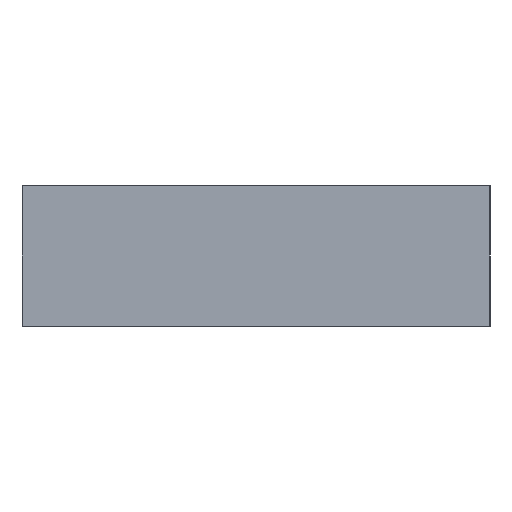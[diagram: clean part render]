
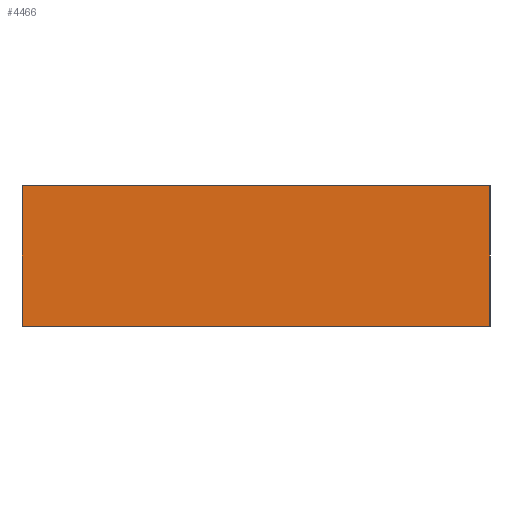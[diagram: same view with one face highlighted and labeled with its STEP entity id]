
A CAD part, left-side view. The second image highlights one B-rep face of the part: STEP entity #4466.
In plain terms, the highlighted planar face has unit normal (-1, 0, 0).
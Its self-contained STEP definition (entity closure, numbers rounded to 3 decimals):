
#4302=CARTESIAN_POINT('',(0.,0.,6.));
#4303=VERTEX_POINT('',#4302);
#4320=CARTESIAN_POINT('',(0.,20.,6.));
#4321=VERTEX_POINT('',#4320);
#4328=CARTESIAN_POINT('',(0.,20.,6.));
#4329=DIRECTION('',(0.,-1.,0.));
#4330=VECTOR('',#4329,20.);
#4331=LINE('',#4328,#4330);
#4332=EDGE_CURVE('',#4321,#4303,#4331,.T.);
#4376=CARTESIAN_POINT('',(0.,0.,0.));
#4377=VERTEX_POINT('',#4376);
#4393=CARTESIAN_POINT('',(0.,0.,6.));
#4394=DIRECTION('',(0.,0.,-1.));
#4395=VECTOR('',#4394,6.);
#4396=LINE('',#4393,#4395);
#4397=EDGE_CURVE('',#4303,#4377,#4396,.T.);
#4431=CARTESIAN_POINT('',(0.,20.,0.));
#4432=VERTEX_POINT('',#4431);
#4439=CARTESIAN_POINT('',(0.,20.,6.));
#4440=DIRECTION('',(0.,0.,-1.));
#4441=VECTOR('',#4440,6.);
#4442=LINE('',#4439,#4441);
#4443=EDGE_CURVE('',#4321,#4432,#4442,.T.);
#4450=CARTESIAN_POINT('',(0.,10.,6.));
#4451=DIRECTION('',(1.,0.,0.));
#4452=DIRECTION('',(0.,0.,-1.));
#4453=AXIS2_PLACEMENT_3D('',#4450,#4451,#4452);
#4454=PLANE('',#4453);
#4455=CARTESIAN_POINT('',(0.,20.,0.));
#4456=DIRECTION('',(0.,-1.,0.));
#4457=VECTOR('',#4456,20.);
#4458=LINE('',#4455,#4457);
#4459=EDGE_CURVE('',#4432,#4377,#4458,.T.);
#4460=ORIENTED_EDGE('',*,*,#4459,.T.);
#4461=ORIENTED_EDGE('',*,*,#4397,.F.);
#4462=ORIENTED_EDGE('',*,*,#4332,.F.);
#4463=ORIENTED_EDGE('',*,*,#4443,.T.);
#4464=EDGE_LOOP('',(#4460,#4461,#4462,#4463));
#4465=FACE_BOUND('',#4464,.T.);
#4466=ADVANCED_FACE('',(#4465),#4454,.F.);
